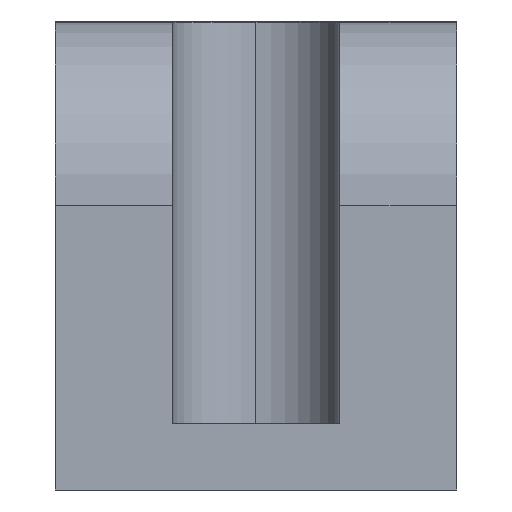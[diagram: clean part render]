
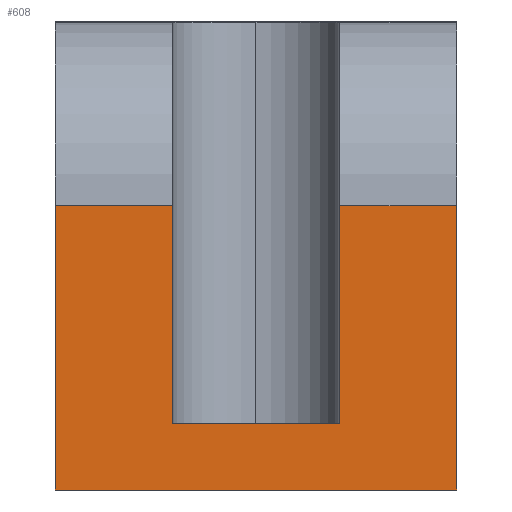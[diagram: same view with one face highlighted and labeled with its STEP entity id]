
A CAD part, left-side view. The second image highlights one B-rep face of the part: STEP entity #608.
In plain terms, the highlighted planar face has unit normal (-1, 0, 0).
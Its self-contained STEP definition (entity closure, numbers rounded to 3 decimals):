
#4 = CARTESIAN_POINT ( 'NONE',  ( 0., 2.5, -12. ) ) ;
#5 = DIRECTION ( 'NONE',  ( 0., 0., -1. ) ) ;
#6 = DIRECTION ( 'NONE',  ( 1., 0., 0. ) ) ;
#7 = CARTESIAN_POINT ( 'NONE',  ( 0., 6., 0. ) ) ;
#17 = VECTOR ( 'NONE', #310, 1000. ) ;
#21 = DIRECTION ( 'NONE',  ( 0., -1., 0. ) ) ;
#34 = LINE ( 'NONE', #214, #17 ) ;
#54 = PLANE ( 'NONE',  #713 ) ;
#60 = EDGE_CURVE ( 'NONE', #659, #430, #34, .T. ) ;
#65 = DIRECTION ( 'NONE',  ( 0., 0., 1. ) ) ;
#68 = CARTESIAN_POINT ( 'NONE',  ( 0., 2.5, -12. ) ) ;
#71 = CARTESIAN_POINT ( 'NONE',  ( 0., -2.5, -12. ) ) ;
#81 = DIRECTION ( 'NONE',  ( 0., 0., 1. ) ) ;
#100 = EDGE_LOOP ( 'NONE', ( #247, #236, #226, #208, #196, #190, #188, #225 ) ) ;
#104 = VERTEX_POINT ( 'NONE', #126 ) ;
#126 = CARTESIAN_POINT ( 'NONE',  ( 0., 6., -14. ) ) ;
#136 = LINE ( 'NONE', #335, #720 ) ;
#181 = DIRECTION ( 'NONE',  ( 0., -1., 0. ) ) ;
#188 = ORIENTED_EDGE ( 'NONE', *, *, #60, .T. ) ;
#189 = VERTEX_POINT ( 'NONE', #703 ) ;
#190 = ORIENTED_EDGE ( 'NONE', *, *, #718, .T. ) ;
#195 = VERTEX_POINT ( 'NONE', #714 ) ;
#196 = ORIENTED_EDGE ( 'NONE', *, *, #738, .T. ) ;
#208 = ORIENTED_EDGE ( 'NONE', *, *, #691, .F. ) ;
#214 = CARTESIAN_POINT ( 'NONE',  ( 0., 6., -5.5 ) ) ;
#225 = ORIENTED_EDGE ( 'NONE', *, *, #573, .F. ) ;
#226 = ORIENTED_EDGE ( 'NONE', *, *, #448, .T. ) ;
#236 = ORIENTED_EDGE ( 'NONE', *, *, #585, .T. ) ;
#241 = CARTESIAN_POINT ( 'NONE',  ( 0., 6., 0. ) ) ;
#247 = ORIENTED_EDGE ( 'NONE', *, *, #660, .F. ) ;
#255 = CARTESIAN_POINT ( 'NONE',  ( 0., -6., -5.5 ) ) ;
#264 = DIRECTION ( 'NONE',  ( 0., 0., 1. ) ) ;
#310 = DIRECTION ( 'NONE',  ( 0., 1., 0. ) ) ;
#324 = CARTESIAN_POINT ( 'NONE',  ( 0., 2.5, -12. ) ) ;
#329 = DIRECTION ( 'NONE',  ( 0., 1., 0. ) ) ;
#335 = CARTESIAN_POINT ( 'NONE',  ( 0., 6., -5.5 ) ) ;
#339 = CARTESIAN_POINT ( 'NONE',  ( 0., 2.5, -5.5 ) ) ;
#345 = DIRECTION ( 'NONE',  ( 0., 0., 1. ) ) ;
#347 = CARTESIAN_POINT ( 'NONE',  ( 0., -2.5, -5.5 ) ) ;
#407 = VERTEX_POINT ( 'NONE', #443 ) ;
#430 = VERTEX_POINT ( 'NONE', #347 ) ;
#443 = CARTESIAN_POINT ( 'NONE',  ( 0., 6., -5.5 ) ) ;
#448 = EDGE_CURVE ( 'NONE', #461, #407, #136, .T. ) ;
#455 = VERTEX_POINT ( 'NONE', #324 ) ;
#461 = VERTEX_POINT ( 'NONE', #339 ) ;
#490 = CARTESIAN_POINT ( 'NONE',  ( 0., 6., -14. ) ) ;
#534 = VECTOR ( 'NONE', #181, 1000. ) ;
#555 = LINE ( 'NONE', #490, #534 ) ;
#559 = LINE ( 'NONE', #715, #586 ) ;
#573 = EDGE_CURVE ( 'NONE', #189, #430, #627, .T. ) ;
#585 = EDGE_CURVE ( 'NONE', #455, #461, #742, .T. ) ;
#586 = VECTOR ( 'NONE', #264, 1000. ) ;
#593 = VECTOR ( 'NONE', #345, 1000. ) ;
#601 = LINE ( 'NONE', #241, #593 ) ;
#608 = ADVANCED_FACE ( 'NONE', ( #688 ), #54, .F. ) ;
#627 = LINE ( 'NONE', #71, #752 ) ;
#636 = VECTOR ( 'NONE', #21, 1000. ) ;
#637 = LINE ( 'NONE', #4, #636 ) ;
#659 = VERTEX_POINT ( 'NONE', #255 ) ;
#660 = EDGE_CURVE ( 'NONE', #455, #189, #637, .T. ) ;
#688 = FACE_OUTER_BOUND ( 'NONE', #100, .T. ) ;
#691 = EDGE_CURVE ( 'NONE', #104, #407, #601, .T. ) ;
#703 = CARTESIAN_POINT ( 'NONE',  ( 0., -2.5, -12. ) ) ;
#713 = AXIS2_PLACEMENT_3D ( 'NONE', #7, #6, #5 ) ;
#714 = CARTESIAN_POINT ( 'NONE',  ( 0., -6., -14. ) ) ;
#715 = CARTESIAN_POINT ( 'NONE',  ( 0., -6., 0. ) ) ;
#718 = EDGE_CURVE ( 'NONE', #195, #659, #559, .T. ) ;
#720 = VECTOR ( 'NONE', #329, 1000. ) ;
#733 = VECTOR ( 'NONE', #65, 1000. ) ;
#738 = EDGE_CURVE ( 'NONE', #104, #195, #555, .T. ) ;
#742 = LINE ( 'NONE', #68, #733 ) ;
#752 = VECTOR ( 'NONE', #81, 1000. ) ;
